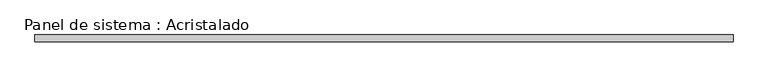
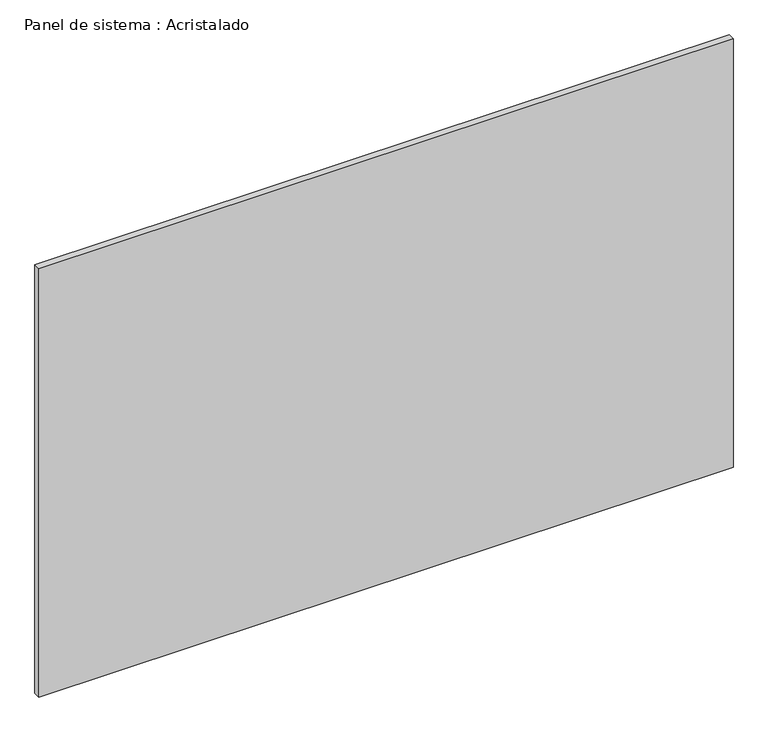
"""IFC4 building model written with IfcOpenShell, lengths in millimetres: plate geometry, Panel de sistema : Acristalado."""

from ifc_helpers import new_model, si_unit, origin, origin_with_axes, place, context, project, spatial, polyline, outline, extrude, source, transform, mapped, element, save


def panel_de_sistema_acristalado_f9136084(model_context):
    return source(origin(), model_context, "Body", "SweptSolid", [
        extrude(outline(polyline([(985.0, -10.0), (-985.0, -10.0), (-985.0, 10.0), (985.0, 10.0), (985.0, -10.0)])), origin_with_axes(), (0.0, 0.0, 1.0), 1285.0),
    ])


if __name__ == "__main__":
    model = new_model("IFC4")
    model_context = context("Model", 3, world=origin())
    ifc_project = project(units=[si_unit("LENGTHUNIT", "METRE", prefix="MILLI")], contexts=[model_context])
    site = spatial("IfcSite", under=ifc_project)
    building = spatial("IfcBuilding", under=site)
    placement = place(None, origin())
    panel_de_sistema_acristalado_shape = panel_de_sistema_acristalado_f9136084(model_context)
    element("IfcPlate", 1, ObjectType="Panel de sistema : Acristalado", at=placement, inside=building, context=model_context, shape_type="MappedRepresentation", body=[
        mapped(panel_de_sistema_acristalado_shape, transform((0.0, 0.0, 0.0), x_axis=(1.0, 0.0, 0.0), y_axis=(0.0, 1.0, 0.0), z_axis=(0.0, 0.0, 1.0))),
    ])
    save(model, "model.ifc")
